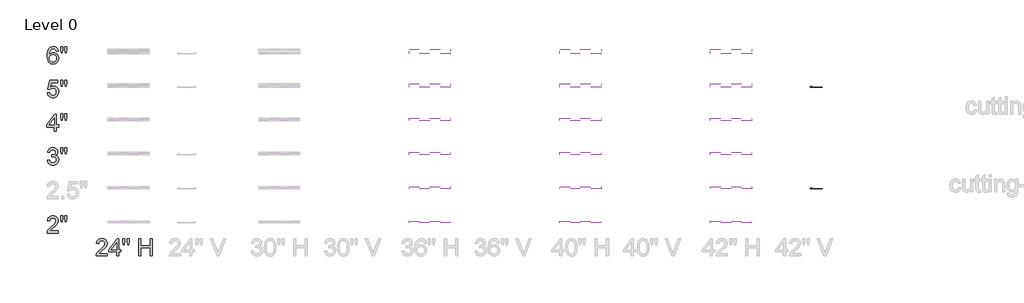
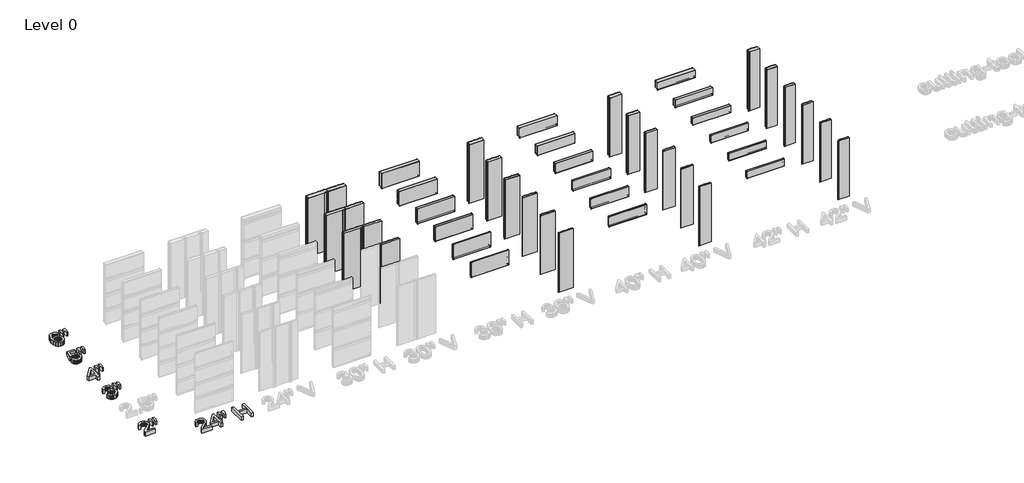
# One storey, part 2 of 5: 43 plates, 6 proxies.
"""IFC4 building model written with IfcOpenShell, lengths in millimetres."""

from ifc_helpers import new_model, si_unit, origin, origin_with_axes, place, context, project, spatial, polyline, outline, extrude, transform, mapped, element, save
from components import plate_b47726fb, plate_b5310251, plate_41d342c4, plate_b517097e, plate_fde0f3bd, plate_5c45e8e0, plate_89738af0, plate_10a718c5, plate_96618327, plate_a8b72244, plate_374e56f4, plate_534590c8, plate_7d6053d8, plate_74843514, plate_0649b553, plate_42dbadf1, plate_4ed21dd5, plate_e803e794, plate_da7b9e45, plate_a3acba6d, plate_1d40ac18, plate_f7d125d8, plate_ed9806c1, plate_fd3d5ee7, plate_15d196fd, plate_daafeea0, plate_80999a55, plate_3caa896a, plate_b5c5fbf1, plate_cc331f6b, plate_b4da4b96, plate_b0eb5d18, plate_366ad755, plate_87e27e4f, plate_29d35a56, plate_fea9afa7, plate_c4b5e563, plate_a3a11aaa, plate_50d09dfa, plate_912df086, plate_67e55ae4, plate_495b0d64, plate_435c7ef1, plate_10c0e79f, plate_5742ab6b, plate_c733afc2, plate_13ff4fa7, plate_491611d7, plate_c9e07188, plate_9c71445d, plate_fb994a9e, plate_1c37ad96, plate_0270b506, plate_cdec7c63, plate_e084fbfc, plate_67e8b0ed, plate_05db5e8a, plate_3e0a3dc7, plate_54b02bbf, plate_d215558d, plate_c20b4eec, plate_cb222a85, plate_255853b2

model = new_model("IFC4")

# Units and contexts
model_context = context("Model", 3, world=origin())
ifc_project = project(units=[si_unit("LENGTHUNIT", "METRE", prefix="MILLI")], contexts=[model_context])

# Site, building, storey
site = spatial("IfcSite", under=ifc_project)
building = spatial("IfcBuilding", under=site)
storey = spatial("IfcBuildingStorey", under=building, Name="Level 0", Elevation=0.0)

# Proxies
placement = place(None, origin())
element("IfcBuildingElementProxy", 1, Name="24\" Arial", ObjectType="24\" Arial", at=placement, inside=storey, context=model_context, shape_type="SweptSolid", body=[
    extrude(outline(polyline([(-32267.664642, 8108.881133), (-32267.664642, 8032.7393595), (-32667.408953, 8032.7393595), (-32665.735916, 8059.5451304), (-32659.2296609, 8085.2355432), (-32640.4544677, 8126.2621287), (-32612.9794821, 8166.0618204), (-32573.2355583, 8207.720442), (-32517.6535508, 8254.3238176), (-32435.488844, 8327.3054101), (-32386.1900199, 8381.177202), (-32371.8111963, 8403.1869334), (-32361.5406079, 8424.899236), (-32355.3782549, 8446.3141098), (-32353.3241372, 8467.4315548), (-32355.2620718, 8487.2988694), (-32361.0758754, 8505.5582095), (-32370.7655481, 8522.2095751), (-32384.3310899, 8537.2529662), (-32401.0196342, 8549.7124447), (-32420.0783142, 8558.6120722), (-32441.5071299, 8563.9518486), (-32465.3060815, 8565.7317741), (-32490.3784001, 8563.9936746), (-32512.8017434, 8558.7793759), (-32532.5761115, 8550.088878), (-32549.7015043, 8537.9221811), (-32563.5551802, 8522.6882496), (-32573.5143978, 8504.7960481), (-32579.579157, 8484.2455768), (-32581.7494578, 8461.0368355), (-32657.8912313, 8470.5545572), (-32651.3431503, 8509.8616324), (-32639.4320562, 8544.2053645), (-32622.157949, 8573.5857534), (-32599.5208288, 8598.0027992), (-32572.0411958, 8617.1962517), (-32540.2395505, 8630.9058605), (-32504.1158929, 8639.1316259), (-32463.6702231, 8641.8735476), (-32422.8620619, 8638.8249024), (-32386.5432167, 8629.6789667), (-32354.7136874, 8614.4357406), (-32327.3734742, 8593.095224), (-32305.4148634, 8567.2375074), (-32289.7301413, 8538.4426815), (-32280.3193081, 8506.7107461), (-32277.1823637, 8472.0417012), (-32280.5656164, 8435.6252622), (-32290.7153742, 8399.8408594), (-32308.7284061, 8363.4430096), (-32335.7014807, 8325.1862299), (-32378.698532, 8279.5123193), (-32444.7834941, 8220.8630773), (-32532.3762765, 8147.6212346), (-32566.7293032, 8108.881133), (-32267.664642, 8108.881133)])), origin_with_axes(), (0.0, 0.0, 1.0), 152.4),
    extrude(outline(polyline([(-32172.9335683, 8422.9659488), (-32191.5228685, 8540.5990403), (-32191.5228685, 8641.8735476), (-32115.381095, 8641.8735476), (-32115.381095, 8540.5990403), (-32132.037108, 8422.9659488), (-32172.9335683, 8422.9659488)])), origin_with_axes(), (0.0, 0.0, 1.0), 152.4),
    extrude(outline(polyline([(-32021.0961645, 8422.9659488), (-32039.2393215, 8540.5990403), (-32039.2393215, 8641.8735476), (-31963.097548, 8641.8735476), (-31963.097548, 8540.5990403), (-31980.9432761, 8422.9659488), (-32021.0961645, 8422.9659488)])), origin_with_axes(), (0.0, 0.0, 1.0), 152.4),
])
element("IfcBuildingElementProxy", 2, Name="24\" Arial", ObjectType="24\" Arial", at=placement, inside=storey, context=model_context, shape_type="SweptSolid", body=[
    extrude(outline(polyline([(-32657.8912313, 10607.5406282), (-32581.7494578, 10617.0583499), (-32564.7030695, 10569.2094913), (-32553.2102347, 10551.1128075), (-32539.7376394, 10536.9012876), (-32523.9785602, 10526.1659667), (-32505.6262736, 10518.4978804), (-32484.6807796, 10513.8970286), (-32461.1420783, 10512.3634113), (-32433.5555568, 10514.4732969), (-32408.9433234, 10520.8029536), (-32387.305378, 10531.3523815), (-32368.6417206, 10546.1215804), (-32353.6122714, 10564.0044872), (-32342.8769505, 10583.8950384), (-32336.435758, 10605.793234), (-32334.2886939, 10629.699074), (-32336.4171687, 10652.4663194), (-32342.8025933, 10673.1794471), (-32353.4449677, 10691.8384572), (-32368.3442918, 10708.4433496), (-32386.5246274, 10722.0739539), (-32407.0100361, 10731.8100999), (-32429.8005182, 10737.6517875), (-32454.8960734, 10739.5990167), (-32478.9506278, 10737.517015), (-32508.2845435, 10731.2710102), (-32499.8078226, 10807.4127837), (-32487.6132417, 10806.5204973), (-32441.9950991, 10811.9857515), (-32401.2101745, 10828.3815143), (-32384.4240364, 10840.7805775), (-32372.4339378, 10856.1167502), (-32365.2398787, 10874.3900322), (-32362.8418589, 10895.6004237), (-32364.5799585, 10912.818763), (-32369.7942572, 10928.4848957), (-32378.484755, 10942.5988219), (-32390.651452, 10955.1605415), (-32405.5600707, 10965.4729558), (-32422.4763339, 10972.838966), (-32441.4002415, 10977.2585721), (-32462.3317935, 10978.7317741), (-32483.2075776, 10977.2446301), (-32502.2616102, 10972.7831981), (-32519.4938915, 10965.347478), (-32534.9044213, 10954.9374699), (-32548.1121191, 10941.5531738), (-32558.7359042, 10925.1945896), (-32566.7757765, 10905.8617174), (-32572.2317361, 10883.5545572), (-32648.3735096, 10893.0722789), (-32639.3484044, 10929.4236554), (-32625.9548136, 10961.443725), (-32608.1927373, 10989.1324876), (-32586.0621754, 11012.4899432), (-32560.2602268, 11031.0327702), (-32531.4839901, 11044.2776465), (-32499.7334654, 11052.2245724), (-32465.0086527, 11054.8735476), (-32417.1412047, 11049.6499543), (-32373.1775098, 11033.9791742), (-32336.1104453, 11009.255405), (-32308.9328884, 10976.8728441), (-32292.2582862, 10939.5641186), (-32286.7000854, 10900.0618558), (-32291.9794467, 10863.2550414), (-32307.8175304, 10829.8686583), (-32333.9912651, 10801.427029), (-32370.277579, 10779.4544762), (-32344.9031843, 10771.5168451), (-32322.6146134, 10760.1959613), (-32303.4118663, 10745.4918248), (-32287.294943, 10727.4044358), (-32274.5426831, 10706.3799373), (-32265.433926, 10682.8644725), (-32259.9686718, 10656.8580416), (-32258.1469203, 10628.3606444), (-32261.7904232, 10589.7320787), (-32272.7209317, 10554.1521581), (-32290.9384459, 10521.6208828), (-32316.4429657, 10492.1382527), (-32347.5149809, 10467.6747337), (-32382.4349813, 10450.2007915), (-32421.2029668, 10439.7164262), (-32463.8189375, 10436.2216378), (-32502.3359674, 10439.2052205), (-32537.4325662, 10448.1559685), (-32569.1087337, 10463.0738819), (-32597.3644699, 10483.9589607), (-32621.056533, 10509.5843109), (-32639.0416809, 10538.723039), (-32651.3199137, 10571.3751447), (-32657.8912313, 10607.5406282)])), origin_with_axes(), (0.0, 0.0, 1.0), 152.4),
    extrude(outline(polyline([(-32172.9335683, 10835.9659488), (-32191.5228685, 10953.5990403), (-32191.5228685, 11054.8735476), (-32115.381095, 11054.8735476), (-32115.381095, 10953.5990403), (-32132.037108, 10835.9659488), (-32172.9335683, 10835.9659488)])), origin_with_axes(), (0.0, 0.0, 1.0), 152.4),
    extrude(outline(polyline([(-32021.0961645, 10835.9659488), (-32039.2393215, 10953.5990403), (-32039.2393215, 11054.8735476), (-31963.097548, 11054.8735476), (-31963.097548, 10953.5990403), (-31980.9432761, 10835.9659488), (-32021.0961645, 10835.9659488)])), origin_with_axes(), (0.0, 0.0, 1.0), 152.4),
])
element("IfcBuildingElementProxy", 3, Name="24\" Arial", ObjectType="24\" Arial", at=placement, inside=storey, context=model_context, shape_type="SweptSolid", body=[
    extrude(outline(polyline([(-32410.4304674, 11639.5393595), (-32410.4304674, 11782.3051848), (-32686.4443964, 11782.3051848), (-32686.4443964, 11858.4469584), (-32391.395024, 12239.1558259), (-32334.2886939, 12239.1558259), (-32334.2886939, 11858.4469584), (-32258.1469203, 11858.4469584), (-32258.1469203, 11782.3051848), (-32334.2886939, 11782.3051848), (-32334.2886939, 11639.5393595), (-32410.4304674, 11639.5393595)]), holes=[polyline([(-32410.4304674, 11858.4469584), (-32410.4304674, 12093.7131414), (-32592.7543235, 11858.4469584), (-32410.4304674, 11858.4469584)])]), origin_with_axes(), (0.0, 0.0, 1.0), 152.4),
    extrude(outline(polyline([(-32172.9335683, 12029.7659488), (-32191.5228685, 12147.3990403), (-32191.5228685, 12248.6735476), (-32115.381095, 12248.6735476), (-32115.381095, 12147.3990403), (-32132.037108, 12029.7659488), (-32172.9335683, 12029.7659488)])), origin_with_axes(), (0.0, 0.0, 1.0), 152.4),
    extrude(outline(polyline([(-32021.0961645, 12029.7659488), (-32039.2393215, 12147.3990403), (-32039.2393215, 12248.6735476), (-31963.097548, 12248.6735476), (-31963.097548, 12147.3990403), (-31980.9432761, 12029.7659488), (-32021.0961645, 12029.7659488)])), origin_with_axes(), (0.0, 0.0, 1.0), 152.4),
])
element("IfcBuildingElementProxy", 4, Name="24\" Arial", ObjectType="24\" Arial", at=placement, inside=storey, context=model_context, shape_type="SweptSolid", body=[
    extrude(outline(polyline([(-30531.9205653, 7302.1451481), (-30531.9205653, 7226.0033745), (-30931.6648763, 7226.0033745), (-30929.9918393, 7252.8091454), (-30923.4855842, 7278.4995582), (-30904.710391, 7319.5261437), (-30877.2354054, 7359.3258354), (-30837.4914816, 7400.9844571), (-30781.9094741, 7447.5878326), (-30699.7447673, 7520.5694251), (-30650.4459432, 7574.441217), (-30636.0671195, 7596.4509484), (-30625.7965312, 7618.163251), (-30619.6341782, 7639.5781248), (-30617.5800605, 7660.6955698), (-30619.5179951, 7680.5628844), (-30625.3317987, 7698.8222245), (-30635.0214714, 7715.4735901), (-30648.5870132, 7730.5169813), (-30665.2755574, 7742.9764597), (-30684.3342374, 7751.8760872), (-30705.7630532, 7757.2158637), (-30729.5620048, 7758.9957892), (-30754.6343234, 7757.2576896), (-30777.0576667, 7752.0433909), (-30796.8320348, 7743.3528931), (-30813.9574276, 7731.1861961), (-30827.8111035, 7715.9522646), (-30837.7703211, 7698.0600632), (-30843.8350803, 7677.5095918), (-30846.0053811, 7654.3008506), (-30922.1471546, 7663.8185723), (-30915.5990736, 7703.1256475), (-30903.6879795, 7737.4693796), (-30886.4138723, 7766.8497685), (-30863.776752, 7791.2668143), (-30836.297119, 7810.4602667), (-30804.4954738, 7824.1698756), (-30768.3718162, 7832.3956409), (-30727.9261464, 7835.1375627), (-30687.1179851, 7832.0889174), (-30650.7991399, 7822.9429818), (-30618.9696107, 7807.6997556), (-30591.6293975, 7786.359239), (-30569.6707866, 7760.5015225), (-30553.9860646, 7731.7066965), (-30544.5752314, 7699.9747611), (-30541.438287, 7665.3057163), (-30544.8215396, 7628.8892772), (-30554.9712975, 7593.1048744), (-30572.9843294, 7556.7070247), (-30599.9574039, 7518.4502449), (-30642.9544553, 7472.7763344), (-30709.0394174, 7414.1270923), (-30796.6321998, 7340.8852496), (-30830.9852265, 7302.1451481), (-30531.9205653, 7302.1451481)])), origin_with_axes(), (0.0, 0.0, 1.0), 152.4),
    extrude(outline(polyline([(-30208.3180279, 7226.0033745), (-30208.3180279, 7368.7691999), (-30484.3319569, 7368.7691999), (-30484.3319569, 7444.9109734), (-30189.2825845, 7825.619841), (-30132.1762543, 7825.619841), (-30132.1762543, 7444.9109734), (-30056.0344808, 7444.9109734), (-30056.0344808, 7368.7691999), (-30132.1762543, 7368.7691999), (-30132.1762543, 7226.0033745), (-30208.3180279, 7226.0033745)]), holes=[polyline([(-30208.3180279, 7444.9109734), (-30208.3180279, 7680.1771564), (-30390.641884, 7444.9109734), (-30208.3180279, 7444.9109734)])]), origin_with_axes(), (0.0, 0.0, 1.0), 152.4),
    extrude(outline(polyline([(-29970.8211288, 7616.2299638), (-29989.410429, 7733.8630553), (-29989.410429, 7835.1375627), (-29913.2686555, 7835.1375627), (-29913.2686555, 7733.8630553), (-29929.9246684, 7616.2299638), (-29970.8211288, 7616.2299638)])), origin_with_axes(), (0.0, 0.0, 1.0), 152.4),
    extrude(outline(polyline([(-29818.983725, 7616.2299638), (-29837.126882, 7733.8630553), (-29837.126882, 7835.1375627), (-29760.9851084, 7835.1375627), (-29760.9851084, 7733.8630553), (-29778.8308366, 7616.2299638), (-29818.983725, 7616.2299638)])), origin_with_axes(), (0.0, 0.0, 1.0), 152.4),
    extrude(outline(polyline([(-29418.3471276, 7226.0033745), (-29418.3471276, 7835.1375627), (-29342.2053541, 7835.1375627), (-29342.2053541, 7587.6767987), (-29018.6028167, 7587.6767987), (-29018.6028167, 7835.1375627), (-28942.4610431, 7835.1375627), (-28942.4610431, 7226.0033745), (-29018.6028167, 7226.0033745), (-29018.6028167, 7511.5350252), (-29342.2053541, 7511.5350252), (-29342.2053541, 7226.0033745), (-29418.3471276, 7226.0033745)])), origin_with_axes(), (0.0, 0.0, 1.0), 152.4),
])
element("IfcBuildingElementProxy", 5, Name="24\" Arial", ObjectType="24\" Arial", at=placement, inside=storey, context=model_context, shape_type="SweptSolid", body=[
    extrude(outline(polyline([(-32657.8912313, 12996.1406282), (-32581.7494578, 13005.6583499), (-32576.0611319, 12981.1808889), (-32567.7703041, 12959.9472608), (-32556.8769742, 12941.9574655), (-32543.3811422, 12927.2115032), (-32527.3106922, 12915.727963), (-32508.6935081, 12907.5254343), (-32487.5295899, 12902.6039171), (-32463.8189375, 12900.9634113), (-32434.8196292, 12903.2452479), (-32409.2407522, 12910.0907577), (-32387.0823064, 12921.4999407), (-32368.3442918, 12937.4727969), (-32353.4449677, 12957.219281), (-32342.8025933, 12979.9493478), (-32336.4171687, 13005.6629972), (-32334.2886939, 13034.3602294), (-32336.2823963, 13061.4820183), (-32342.2635036, 13085.5923407), (-32352.2320159, 13106.6911964), (-32366.187933, 13124.7785854), (-32384.1777282, 13139.2875342), (-32406.2478748, 13149.6510691), (-32432.3983729, 13155.86919), (-32462.6292223, 13157.9418969), (-32499.5661617, 13154.6330015), (-32529.4763457, 13144.7063152), (-32553.3635964, 13129.5002677), (-32572.2317361, 13110.3532885), (-32648.3735096, 13119.8710102), (-32581.7494578, 13433.9558259), (-32286.7000854, 13433.9558259), (-32286.7000854, 13357.8140524), (-32520.1816956, 13357.8140524), (-32552.7501495, 13190.0642076), (-32525.8793161, 13209.3227226), (-32498.3578572, 13223.0788048), (-32470.1857728, 13231.332454), (-32441.3630629, 13234.0836705), (-32404.2820563, 13230.6725339), (-32370.2218111, 13220.4391241), (-32339.1823271, 13203.3834412), (-32311.1636044, 13179.5054851), (-32287.9688051, 13150.264516), (-32271.4010914, 13117.1197938), (-32261.4604631, 13080.0713185), (-32258.1469203, 13039.1190902), (-32261.130503, 12999.6725953), (-32270.0812511, 12962.9773167), (-32284.9991644, 12929.0332546), (-32305.8842432, 12897.8404089), (-32337.5232321, 12865.8946965), (-32374.4415822, 12843.0763306), (-32416.6392936, 12829.385311), (-32464.1163663, 12824.8216378), (-32503.4094995, 12827.7540999), (-32538.9011209, 12836.5514862), (-32570.5912304, 12851.2137967), (-32598.4798279, 12871.7410315), (-32621.6839219, 12897.1107789), (-32639.3205204, 12926.3006275), (-32651.3896236, 12959.3105772), (-32657.8912313, 12996.1406282)])), origin_with_axes(), (0.0, 0.0, 1.0), 152.4),
    extrude(outline(polyline([(-32172.9335683, 13224.5659488), (-32191.5228685, 13342.1990403), (-32191.5228685, 13443.4735476), (-32115.381095, 13443.4735476), (-32115.381095, 13342.1990403), (-32132.037108, 13224.5659488), (-32172.9335683, 13224.5659488)])), origin_with_axes(), (0.0, 0.0, 1.0), 152.4),
    extrude(outline(polyline([(-32021.0961645, 13224.5659488), (-32039.2393215, 13342.1990403), (-32039.2393215, 13443.4735476), (-31963.097548, 13443.4735476), (-31963.097548, 13342.1990403), (-31980.9432761, 13224.5659488), (-32021.0961645, 13224.5659488)])), origin_with_axes(), (0.0, 0.0, 1.0), 152.4),
])
element("IfcBuildingElementProxy", 6, Name="24\" Arial", ObjectType="24\" Arial", at=placement, inside=storey, context=model_context, shape_type="SweptSolid", body=[
    extrude(outline(polyline([(-32267.664642, 14473.0707053), (-32343.8064155, 14463.5529837), (-32356.0753537, 14501.289263), (-32372.6570094, 14527.0540331), (-32389.0248882, 14540.9123563), (-32407.1959291, 14550.8111587), (-32427.1701322, 14556.7504401), (-32448.9474973, 14558.7302005), (-32484.3415249, 14554.1200541), (-32517.6535508, 14540.2896148), (-32546.2624838, 14511.1601814), (-32569.6292341, 14471.0630609), (-32578.7612278, 14445.4888312), (-32585.4115499, 14414.3471061), (-32591.2671795, 14335.3611696), (-32560.7249593, 14370.9968581), (-32524.1226272, 14396.1110026), (-32483.5050064, 14411.0010321), (-32440.9169197, 14415.9643752), (-32404.3331769, 14412.5718279), (-32370.5750078, 14402.3941861), (-32339.6424123, 14385.4314497), (-32311.5353904, 14361.6836187), (-32288.1779348, 14332.56348), (-32271.4940379, 14299.4838203), (-32261.4836997, 14262.4446397), (-32258.1469203, 14221.4459382), (-32259.7177162, 14193.6874657), (-32264.4301038, 14166.9235208), (-32272.2840831, 14141.1541034), (-32283.2796542, 14116.3792136), (-32297.0264417, 14093.523669), (-32313.1340703, 14073.5122874), (-32331.60254, 14056.3450687), (-32352.4318508, 14042.0220129), (-32375.1758596, 14030.7336604), (-32399.3884231, 14022.6705514), (-32425.0695413, 14017.832686), (-32452.2192142, 14016.2200642), (-32497.6096379, 14020.4956033), (-32538.6036921, 14033.3222204), (-32575.2013768, 14054.6999156), (-32607.402692, 14084.6286889), (-32633.6554312, 14124.3726127), (-32652.4073878, 14175.1957593), (-32663.6585617, 14237.0981289), (-32667.408953, 14310.0797214), (-32663.2449498, 14391.9005261), (-32650.75294, 14461.7312322), (-32629.9329238, 14519.5718397), (-32616.3999133, 14543.9958565), (-32600.7849012, 14565.4223486), (-32569.1923855, 14595.8065597), (-32532.5621695, 14617.5095677), (-32490.8942532, 14630.5313725), (-32444.1886365, 14634.8719741), (-32409.1199217, 14632.1858202), (-32377.3786917, 14624.1273586), (-32348.9649463, 14610.6965892), (-32323.8786858, 14591.8935121), (-32302.7984194, 14568.3501634), (-32286.4026566, 14540.6985794), (-32274.6913975, 14508.93876), (-32267.664642, 14473.0707053)]), holes=[polyline([(-32591.2671795, 14222.6356534), (-32586.8615153, 14188.8960736), (-32573.6445229, 14156.6808164), (-32553.1219355, 14128.9827591), (-32526.7994865, 14108.7947791), (-32495.0303725, 14096.4700731), (-32458.1677902, 14092.3618378), (-32431.7012741, 14094.4903126), (-32407.9209119, 14100.8757372), (-32386.8267035, 14111.5181116), (-32368.418649, 14126.4174357), (-32353.4867936, 14144.9695573), (-32342.8211826, 14166.5703241), (-32336.4218161, 14191.2197361), (-32334.2886939, 14218.9177933), (-32336.3939321, 14245.5330239), (-32342.7096468, 14269.1646717), (-32353.2358381, 14289.8127369), (-32367.9725058, 14307.4772194), (-32386.4363282, 14321.6283241), (-32408.1439835, 14331.7362561), (-32433.0954716, 14337.8010153), (-32461.2907927, 14339.8226017), (-32487.4041121, 14337.8010153), (-32511.4633138, 14331.7362561), (-32533.4683979, 14321.6283241), (-32553.4193643, 14307.4772194), (-32569.9777835, 14290.0451031), (-32581.8052257, 14270.0941367), (-32588.901691, 14247.6243201), (-32591.2671795, 14222.6356534)])]), origin_with_axes(), (0.0, 0.0, 1.0), 152.4),
    extrude(outline(polyline([(-32172.9335683, 14415.9643752), (-32191.5228685, 14533.5974667), (-32191.5228685, 14634.8719741), (-32115.381095, 14634.8719741), (-32115.381095, 14533.5974667), (-32132.037108, 14415.9643752), (-32172.9335683, 14415.9643752)])), origin_with_axes(), (0.0, 0.0, 1.0), 152.4),
    extrude(outline(polyline([(-32021.0961645, 14415.9643752), (-32039.2393215, 14533.5974667), (-32039.2393215, 14634.8719741), (-31963.097548, 14634.8719741), (-31963.097548, 14533.5974667), (-31980.9432761, 14415.9643752), (-32021.0961645, 14415.9643752)])), origin_with_axes(), (0.0, 0.0, 1.0), 152.4),
])

# Plates
plate_shape = plate_b47726fb(model_context)
element("IfcPlate", 7, ObjectType="KIP-42-Karrier-KP-R19-CP-Hz-FL3-8in_SL : Hz 2\"", at=placement, inside=storey, context=model_context, shape_type="MappedRepresentation", body=[
    mapped(plate_shape, transform((-8448.7250935, 8444.8222907, 2133.6), x_axis=(1.0, 0.0, 0.0), y_axis=(0.0, 1.0, 0.0), z_axis=(0.0, 0.0, 1.0))),
])
plate_2_shape = plate_b5310251(model_context)
element("IfcPlate", 8, ObjectType="KIP-40-Karrier-KP-R19-CP-Hz-FL3-8in_SL : Hz 2\"", at=placement, inside=storey, context=model_context, shape_type="MappedRepresentation", body=[
    mapped(plate_2_shape, transform((-13782.7250935, 8444.8222907, 2032.0), x_axis=(1.0, 0.0, 0.0), y_axis=(0.0, 1.0, 0.0), z_axis=(0.0, 0.0, 1.0))),
])
plate_3_shape = plate_41d342c4(model_context)
plate_4_shape = plate_b517097e(model_context)
element("IfcPlate", 9, ObjectType="KIP-36-Karrier-KP-R19-CP-Hz-FL3-8in_SL : Hz 2\"", at=placement, inside=storey, context=model_context, shape_type="MappedRepresentation", body=[
    mapped(plate_3_shape, transform((-19116.7250935, 8444.8222907, 1828.8), x_axis=(1.0, 0.0, 0.0), y_axis=(0.0, 1.0, 0.0), z_axis=(0.0, 0.0, 1.0))),
    mapped(plate_4_shape, transform((-19116.7250935, 8444.8222907, 1828.8), x_axis=(1.0, 0.0, 0.0), y_axis=(0.0, 1.0, 0.0), z_axis=(0.0, 0.0, 1.0))),
])
plate_5_shape = plate_fde0f3bd(model_context)
element("IfcPlate", 10, ObjectType="KIP-42-Karrier-KP-R19-CP-Hz-FL3-8in_SL : Hz 2.5\"", at=placement, inside=storey, context=model_context, shape_type="MappedRepresentation", body=[
    mapped(plate_5_shape, transform((-8448.7250935, 9664.0222907, 2133.6), x_axis=(1.0, 0.0, 0.0), y_axis=(0.0, 1.0, 0.0), z_axis=(0.0, 0.0, 1.0))),
])
plate_6_shape = plate_5c45e8e0(model_context)
element("IfcPlate", 11, ObjectType="KIP-40-Karrier-KP-R19-CP-Hz-FL3-8in_SL : Hz 2.5\"", at=placement, inside=storey, context=model_context, shape_type="MappedRepresentation", body=[
    mapped(plate_6_shape, transform((-13782.7250935, 9664.0222907, 2032.0), x_axis=(1.0, 0.0, 0.0), y_axis=(0.0, 1.0, 0.0), z_axis=(0.0, 0.0, 1.0))),
])
plate_7_shape = plate_89738af0(model_context)
plate_8_shape = plate_10a718c5(model_context)
element("IfcPlate", 12, ObjectType="KIP-36-Karrier-KP-R19-CP-Hz-FL3-8in_SL : Hz 2.5\"", at=placement, inside=storey, context=model_context, shape_type="MappedRepresentation", body=[
    mapped(plate_7_shape, transform((-19116.7250935, 9664.0222907, 1828.8), x_axis=(1.0, 0.0, 0.0), y_axis=(0.0, 1.0, 0.0), z_axis=(0.0, 0.0, 1.0))),
    mapped(plate_8_shape, transform((-19116.7250935, 9664.0222907, 1828.8), x_axis=(1.0, 0.0, 0.0), y_axis=(0.0, 1.0, 0.0), z_axis=(0.0, 0.0, 1.0))),
])
plate_9_shape = plate_96618327(model_context)
element("IfcPlate", 13, ObjectType="KIP-42-Karrier-KP-R19-CP-Hz-FL3-8in_SL : Hz 3\"", at=placement, inside=storey, context=model_context, shape_type="MappedRepresentation", body=[
    mapped(plate_9_shape, transform((-8448.7250935, 10883.2222907, 2133.6), x_axis=(1.0, 0.0, 0.0), y_axis=(0.0, 1.0, 0.0), z_axis=(0.0, 0.0, 1.0))),
])
plate_10_shape = plate_a8b72244(model_context)
element("IfcPlate", 14, ObjectType="KIP-40-Karrier-KP-R19-CP-Hz-FL3-8in_SL : Hz 3\"", at=placement, inside=storey, context=model_context, shape_type="MappedRepresentation", body=[
    mapped(plate_10_shape, transform((-13782.7250935, 10883.2222907, 2032.0), x_axis=(1.0, 0.0, 0.0), y_axis=(0.0, 1.0, 0.0), z_axis=(0.0, 0.0, 1.0))),
])
plate_11_shape = plate_374e56f4(model_context)
plate_12_shape = plate_534590c8(model_context)
element("IfcPlate", 15, ObjectType="KIP-36-Karrier-KP-R19-CP-Hz-FL3-8in_SL : Hz 3\"", at=placement, inside=storey, context=model_context, shape_type="MappedRepresentation", body=[
    mapped(plate_11_shape, transform((-19116.7250935, 10883.2222907, 1828.8), x_axis=(1.0, 0.0, 0.0), y_axis=(0.0, 1.0, 0.0), z_axis=(0.0, 0.0, 1.0))),
    mapped(plate_12_shape, transform((-19116.7250935, 10883.2222907, 1828.8), x_axis=(1.0, 0.0, 0.0), y_axis=(0.0, 1.0, 0.0), z_axis=(0.0, 0.0, 1.0))),
])
plate_13_shape = plate_7d6053d8(model_context)
element("IfcPlate", 16, ObjectType="KIP-42-Karrier-KP-R19-CP-Hz-FL3-8in_SL : Hz 4\"", at=placement, inside=storey, context=model_context, shape_type="MappedRepresentation", body=[
    mapped(plate_13_shape, transform((-8448.7250935, 12102.4222907, 2133.6), x_axis=(1.0, 0.0, 0.0), y_axis=(0.0, 1.0, 0.0), z_axis=(0.0, 0.0, 1.0))),
])
plate_14_shape = plate_74843514(model_context)
element("IfcPlate", 17, ObjectType="KIP-40-Karrier-KP-R19-CP-Hz-FL3-8in_SL : Hz 4\"", at=placement, inside=storey, context=model_context, shape_type="MappedRepresentation", body=[
    mapped(plate_14_shape, transform((-13782.7250935, 12102.4222907, 2032.0), x_axis=(1.0, 0.0, 0.0), y_axis=(0.0, 1.0, 0.0), z_axis=(0.0, 0.0, 1.0))),
])
plate_15_shape = plate_0649b553(model_context)
plate_16_shape = plate_42dbadf1(model_context)
element("IfcPlate", 18, ObjectType="KIP-36-Karrier-KP-R19-CP-Hz-FL3-8in_SL : Hz 4\"", at=placement, inside=storey, context=model_context, shape_type="MappedRepresentation", body=[
    mapped(plate_15_shape, transform((-19116.7250935, 12102.4222907, 1828.8), x_axis=(1.0, 0.0, 0.0), y_axis=(0.0, 1.0, 0.0), z_axis=(0.0, 0.0, 1.0))),
    mapped(plate_16_shape, transform((-19116.7250935, 12102.4222907, 1828.8), x_axis=(1.0, 0.0, 0.0), y_axis=(0.0, 1.0, 0.0), z_axis=(0.0, 0.0, 1.0))),
])
plate_17_shape = plate_4ed21dd5(model_context)
element("IfcPlate", 19, ObjectType="KIP-42-Karrier-KP-R19-CP-Hz-FL3-8in_SL : Hz 5\"", at=placement, inside=storey, context=model_context, shape_type="MappedRepresentation", body=[
    mapped(plate_17_shape, transform((-8448.7250935, 13321.6222907, 2133.6), x_axis=(1.0, 0.0, 0.0), y_axis=(0.0, 1.0, 0.0), z_axis=(0.0, 0.0, 1.0))),
])
plate_18_shape = plate_e803e794(model_context)
element("IfcPlate", 20, ObjectType="KIP-40-Karrier-KP-R19-CP-Hz-FL3-8in_SL : Hz 5\"", at=placement, inside=storey, context=model_context, shape_type="MappedRepresentation", body=[
    mapped(plate_18_shape, transform((-13782.7250935, 13321.6222907, 2032.0), x_axis=(1.0, 0.0, 0.0), y_axis=(0.0, 1.0, 0.0), z_axis=(0.0, 0.0, 1.0))),
])
plate_19_shape = plate_da7b9e45(model_context)
plate_20_shape = plate_a3acba6d(model_context)
element("IfcPlate", 21, ObjectType="KIP-36-Karrier-KP-R19-CP-Hz-FL3-8in_SL : Hz 5\"", at=placement, inside=storey, context=model_context, shape_type="MappedRepresentation", body=[
    mapped(plate_19_shape, transform((-19116.7250935, 13321.6222907, 1828.8), x_axis=(1.0, 0.0, 0.0), y_axis=(0.0, 1.0, 0.0), z_axis=(0.0, 0.0, 1.0))),
    mapped(plate_20_shape, transform((-19116.7250935, 13321.6222907, 1828.8), x_axis=(1.0, 0.0, 0.0), y_axis=(0.0, 1.0, 0.0), z_axis=(0.0, 0.0, 1.0))),
])
plate_21_shape = plate_1d40ac18(model_context)
element("IfcPlate", 22, ObjectType="KIP-42-Karrier-KP-R19-CP-Hz-FL3-8in_SL : Hz 6\"", at=placement, inside=storey, context=model_context, shape_type="MappedRepresentation", body=[
    mapped(plate_21_shape, transform((-8448.7250935, 14539.4207172, 2133.6), x_axis=(1.0, 0.0, 0.0), y_axis=(0.0, 1.0, 0.0), z_axis=(0.0, 0.0, 1.0))),
])
plate_22_shape = plate_f7d125d8(model_context)
element("IfcPlate", 23, ObjectType="KIP-40-Karrier-KP-R19-CP-Hz-FL3-8in_SL : Hz 6\"", at=placement, inside=storey, context=model_context, shape_type="MappedRepresentation", body=[
    mapped(plate_22_shape, transform((-13782.7250935, 14539.4207172, 2032.0), x_axis=(1.0, 0.0, 0.0), y_axis=(0.0, 1.0, 0.0), z_axis=(0.0, 0.0, 1.0))),
])
plate_23_shape = plate_ed9806c1(model_context)
plate_24_shape = plate_fd3d5ee7(model_context)
element("IfcPlate", 24, ObjectType="KIP-36-Karrier-KP-R19-CP-Hz-FL3-8in_SL : Hz 6\"", at=placement, inside=storey, context=model_context, shape_type="MappedRepresentation", body=[
    mapped(plate_23_shape, transform((-19116.7250935, 14539.4207172, 1828.8), x_axis=(1.0, 0.0, 0.0), y_axis=(0.0, 1.0, 0.0), z_axis=(0.0, 0.0, 1.0))),
    mapped(plate_24_shape, transform((-19116.7250935, 14539.4207172, 1828.8), x_axis=(1.0, 0.0, 0.0), y_axis=(0.0, 1.0, 0.0), z_axis=(0.0, 0.0, 1.0))),
])
plate_25_shape = plate_15d196fd(model_context)
element("IfcPlate", 25, ObjectType="KIP-42-Karrier-KP-R19-CP-Vt-FL3-8in_SL : Vt 2\"", at=placement, inside=storey, context=model_context, shape_type="MappedRepresentation", body=[
    mapped(plate_25_shape, transform((-5415.5413834, 8443.4207172, 0.0), x_axis=(1.0, 0.0, 0.0), y_axis=(0.0, 1.0, 0.0), z_axis=(0.0, 0.0, 1.0))),
])
plate_26_shape = plate_daafeea0(model_context)
element("IfcPlate", 26, ObjectType="KIP-40-Karrier-KP-R19-CP-Vt-FL3-8in_SL : Vt 2\"", at=placement, inside=storey, context=model_context, shape_type="MappedRepresentation", body=[
    mapped(plate_26_shape, transform((-10774.9413834, 8443.4207172, 0.0), x_axis=(1.0, 0.0, 0.0), y_axis=(0.0, 1.0, 0.0), z_axis=(0.0, 0.0, 1.0))),
])
plate_27_shape = plate_80999a55(model_context)
plate_28_shape = plate_3caa896a(model_context)
element("IfcPlate", 27, ObjectType="KIP-36-Karrier-KP-R19-CP-Vt-FL3-8in_SL : Vt 2\"", at=placement, inside=storey, context=model_context, shape_type="MappedRepresentation", body=[
    mapped(plate_27_shape, transform((-16159.7413834, 8443.4207172, 0.0), x_axis=(1.0, 0.0, 0.0), y_axis=(0.0, 1.0, 0.0), z_axis=(0.0, 0.0, 1.0))),
    mapped(plate_28_shape, transform((-16159.7413834, 8443.4207172, 0.0), x_axis=(1.0, 0.0, 0.0), y_axis=(0.0, 1.0, 0.0), z_axis=(0.0, 0.0, 1.0))),
])
plate_29_shape = plate_b5c5fbf1(model_context)
element("IfcPlate", 28, ObjectType="KIP-42-Karrier-KP-R19-CP-Vt-FL3-8in_SL : Vt 2.5\"", at=placement, inside=storey, context=model_context, shape_type="MappedRepresentation", body=[
    mapped(plate_29_shape, transform((-5415.5413834, 9662.6207172, 0.0), x_axis=(1.0, 0.0, 0.0), y_axis=(0.0, 1.0, 0.0), z_axis=(0.0, 0.0, 1.0))),
])
plate_30_shape = plate_cc331f6b(model_context)
element("IfcPlate", 29, ObjectType="KIP-40-Karrier-KP-R19-CP-Vt-FL3-8in_SL : Vt 2.5\"", at=placement, inside=storey, context=model_context, shape_type="MappedRepresentation", body=[
    mapped(plate_30_shape, transform((-10774.9413834, 9662.6207172, 0.0), x_axis=(1.0, 0.0, 0.0), y_axis=(0.0, 1.0, 0.0), z_axis=(0.0, 0.0, 1.0))),
])
plate_31_shape = plate_b4da4b96(model_context)
plate_32_shape = plate_b0eb5d18(model_context)
element("IfcPlate", 30, ObjectType="KIP-36-Karrier-KP-R19-CP-Vt-FL3-8in_SL : Vt 2.5\"", at=placement, inside=storey, context=model_context, shape_type="MappedRepresentation", body=[
    mapped(plate_31_shape, transform((-16159.7413834, 9662.6207172, 0.0), x_axis=(1.0, 0.0, 0.0), y_axis=(0.0, 1.0, 0.0), z_axis=(0.0, 0.0, 1.0))),
    mapped(plate_32_shape, transform((-16159.7413834, 9662.6207172, 0.0), x_axis=(1.0, 0.0, 0.0), y_axis=(0.0, 1.0, 0.0), z_axis=(0.0, 0.0, 1.0))),
])
plate_33_shape = plate_366ad755(model_context)
element("IfcPlate", 31, ObjectType="KIP-42-Karrier-KP-R19-CP-Vt-FL3-8in_SL : Vt 3\"", at=placement, inside=storey, context=model_context, shape_type="MappedRepresentation", body=[
    mapped(plate_33_shape, transform((-5415.5413834, 10881.8207172, 0.0), x_axis=(1.0, 0.0, 0.0), y_axis=(0.0, 1.0, 0.0), z_axis=(0.0, 0.0, 1.0))),
])
plate_34_shape = plate_87e27e4f(model_context)
element("IfcPlate", 32, ObjectType="KIP-40-Karrier-KP-R19-CP-Vt-FL3-8in_SL : Vt 3\"", at=placement, inside=storey, context=model_context, shape_type="MappedRepresentation", body=[
    mapped(plate_34_shape, transform((-10774.9413834, 10881.8207172, 0.0), x_axis=(1.0, 0.0, 0.0), y_axis=(0.0, 1.0, 0.0), z_axis=(0.0, 0.0, 1.0))),
])
plate_35_shape = plate_29d35a56(model_context)
plate_36_shape = plate_fea9afa7(model_context)
element("IfcPlate", 33, ObjectType="KIP-36-Karrier-KP-R19-CP-Vt-FL3-8in_SL : Vt 3\"", at=placement, inside=storey, context=model_context, shape_type="MappedRepresentation", body=[
    mapped(plate_35_shape, transform((-16159.7413834, 10881.8207172, 0.0), x_axis=(1.0, 0.0, 0.0), y_axis=(0.0, 1.0, 0.0), z_axis=(0.0, 0.0, 1.0))),
    mapped(plate_36_shape, transform((-16159.7413834, 10881.8207172, 0.0), x_axis=(1.0, 0.0, 0.0), y_axis=(0.0, 1.0, 0.0), z_axis=(0.0, 0.0, 1.0))),
])
plate_37_shape = plate_c4b5e563(model_context)
plate_38_shape = plate_a3a11aaa(model_context)
element("IfcPlate", 34, ObjectType="KIP-30-Karrier-KP-R19-CP-Vt-FL3-8_SL : Vt 3\"", at=placement, inside=storey, context=model_context, shape_type="MappedRepresentation", body=[
    mapped(plate_37_shape, transform((-21569.9413834, 10881.8207172, 0.0), x_axis=(1.0, 0.0, 0.0), y_axis=(0.0, 1.0, 0.0), z_axis=(0.0, 0.0, 1.0))),
    mapped(plate_38_shape, transform((-21569.9413834, 10881.8207172, 0.0), x_axis=(1.0, 0.0, 0.0), y_axis=(0.0, 1.0, 0.0), z_axis=(0.0, 0.0, 1.0))),
])
plate_39_shape = plate_50d09dfa(model_context)
element("IfcPlate", 35, ObjectType="KIP-42-Karrier-KP-R19-CP-Vt-FL3-8in_SL : Vt 4\"", at=placement, inside=storey, context=model_context, shape_type="MappedRepresentation", body=[
    mapped(plate_39_shape, transform((-5415.5413834, 12101.0207172, 0.0), x_axis=(1.0, 0.0, 0.0), y_axis=(0.0, 1.0, 0.0), z_axis=(0.0, 0.0, 1.0))),
])
plate_40_shape = plate_912df086(model_context)
element("IfcPlate", 36, ObjectType="KIP-40-Karrier-KP-R19-CP-Vt-FL3-8in_SL : Vt 4\"", at=placement, inside=storey, context=model_context, shape_type="MappedRepresentation", body=[
    mapped(plate_40_shape, transform((-10774.9413834, 12101.0207172, 0.0), x_axis=(1.0, 0.0, 0.0), y_axis=(0.0, 1.0, 0.0), z_axis=(0.0, 0.0, 1.0))),
])
plate_41_shape = plate_67e55ae4(model_context)
plate_42_shape = plate_495b0d64(model_context)
element("IfcPlate", 37, ObjectType="KIP-36-Karrier-KP-R19-CP-Vt-FL3-8in_SL : Vt 4\"", at=placement, inside=storey, context=model_context, shape_type="MappedRepresentation", body=[
    mapped(plate_41_shape, transform((-16159.7413834, 12101.0207172, 0.0), x_axis=(1.0, 0.0, 0.0), y_axis=(0.0, 1.0, 0.0), z_axis=(0.0, 0.0, 1.0))),
    mapped(plate_42_shape, transform((-16159.7413834, 12101.0207172, 0.0), x_axis=(1.0, 0.0, 0.0), y_axis=(0.0, 1.0, 0.0), z_axis=(0.0, 0.0, 1.0))),
])
plate_43_shape = plate_435c7ef1(model_context)
plate_44_shape = plate_10c0e79f(model_context)
plate_45_shape = plate_5742ab6b(model_context)
element("IfcPlate", 38, ObjectType="KIP-30-Karrier-KP-R19-CP-Vt-FL3-8_SL : Vt 4\"", at=placement, inside=storey, context=model_context, shape_type="MappedRepresentation", body=[
    mapped(plate_43_shape, transform((-22299.9413834, 12101.0207172, 0.0), x_axis=(1.0, 0.0, 0.0), y_axis=(0.0, 1.0, 0.0), z_axis=(0.0, 0.0, 1.0))),
    mapped(plate_44_shape, transform((-22299.9413834, 12101.0207172, 0.0), x_axis=(1.0, 0.0, 0.0), y_axis=(0.0, 1.0, 0.0), z_axis=(0.0, 0.0, 1.0))),
    mapped(plate_45_shape, transform((-22299.9413834, 12101.0207172, 0.0), x_axis=(1.0, 0.0, 0.0), y_axis=(0.0, 1.0, 0.0), z_axis=(0.0, 0.0, 1.0))),
])
plate_46_shape = plate_c733afc2(model_context)
plate_47_shape = plate_13ff4fa7(model_context)
element("IfcPlate", 39, ObjectType="KIP-30-Karrier-KP-R19-CP-Vt-FL3-8_SL : Vt 4\"", at=placement, inside=storey, context=model_context, shape_type="MappedRepresentation", body=[
    mapped(plate_46_shape, transform((-21569.9413834, 12101.0207172, 0.0), x_axis=(1.0, 0.0, 0.0), y_axis=(0.0, 1.0, 0.0), z_axis=(0.0, 0.0, 1.0))),
    mapped(plate_47_shape, transform((-21569.9413834, 12101.0207172, 0.0), x_axis=(1.0, 0.0, 0.0), y_axis=(0.0, 1.0, 0.0), z_axis=(0.0, 0.0, 1.0))),
])
plate_48_shape = plate_491611d7(model_context)
element("IfcPlate", 40, ObjectType="KIP-42-Karrier-KP-R19-CP-Vt-FL3-8in_SL : Vt 5\"", at=placement, inside=storey, context=model_context, shape_type="MappedRepresentation", body=[
    mapped(plate_48_shape, transform((-5415.5413834, 13320.2207172, 0.0), x_axis=(1.0, 0.0, 0.0), y_axis=(0.0, 1.0, 0.0), z_axis=(0.0, 0.0, 1.0))),
])
plate_49_shape = plate_c9e07188(model_context)
element("IfcPlate", 41, ObjectType="KIP-40-Karrier-KP-R19-CP-Vt-FL3-8in_SL : Vt 5\"", at=placement, inside=storey, context=model_context, shape_type="MappedRepresentation", body=[
    mapped(plate_49_shape, transform((-10774.9413834, 13320.2207172, 0.0), x_axis=(1.0, 0.0, 0.0), y_axis=(0.0, 1.0, 0.0), z_axis=(0.0, 0.0, 1.0))),
])
plate_50_shape = plate_9c71445d(model_context)
plate_51_shape = plate_fb994a9e(model_context)
element("IfcPlate", 42, ObjectType="KIP-36-Karrier-KP-R19-CP-Vt-FL3-8in_SL : Vt 5\"", at=placement, inside=storey, context=model_context, shape_type="MappedRepresentation", body=[
    mapped(plate_50_shape, transform((-16159.7413834, 13320.2207172, 0.0), x_axis=(1.0, 0.0, 0.0), y_axis=(0.0, 1.0, 0.0), z_axis=(0.0, 0.0, 1.0))),
    mapped(plate_51_shape, transform((-16159.7413834, 13320.2207172, 0.0), x_axis=(1.0, 0.0, 0.0), y_axis=(0.0, 1.0, 0.0), z_axis=(0.0, 0.0, 1.0))),
])
plate_52_shape = plate_1c37ad96(model_context)
plate_53_shape = plate_0270b506(model_context)
element("IfcPlate", 43, ObjectType="KIP-30-Karrier-KP-R19-CP-Vt-FL3-8_SL : Vt 5\"", at=placement, inside=storey, context=model_context, shape_type="MappedRepresentation", body=[
    mapped(plate_52_shape, transform((-22299.9413834, 13320.2207172, 0.0), x_axis=(1.0, 0.0, 0.0), y_axis=(0.0, 1.0, 0.0), z_axis=(0.0, 0.0, 1.0))),
    mapped(plate_44_shape, transform((-22299.9413834, 13320.2207172, 0.0), x_axis=(1.0, 0.0, 0.0), y_axis=(0.0, 1.0, 0.0), z_axis=(0.0, 0.0, 1.0))),
    mapped(plate_53_shape, transform((-22299.9413834, 13320.2207172, 0.0), x_axis=(1.0, 0.0, 0.0), y_axis=(0.0, 1.0, 0.0), z_axis=(0.0, 0.0, 1.0))),
])
plate_54_shape = plate_cdec7c63(model_context)
plate_55_shape = plate_e084fbfc(model_context)
element("IfcPlate", 44, ObjectType="KIP-30-Karrier-KP-R19-CP-Vt-FL3-8_SL : Vt 5\"", at=placement, inside=storey, context=model_context, shape_type="MappedRepresentation", body=[
    mapped(plate_54_shape, transform((-21569.9413834, 13320.2207172, 0.0), x_axis=(1.0, 0.0, 0.0), y_axis=(0.0, 1.0, 0.0), z_axis=(0.0, 0.0, 1.0))),
    mapped(plate_55_shape, transform((-21569.9413834, 13320.2207172, 0.0), x_axis=(1.0, 0.0, 0.0), y_axis=(0.0, 1.0, 0.0), z_axis=(0.0, 0.0, 1.0))),
])
plate_56_shape = plate_67e8b0ed(model_context)
element("IfcPlate", 45, ObjectType="KIP-42-Karrier-KP-R19-CP-Vt-FL3-8in_SL : Vt 6\"", at=placement, inside=storey, context=model_context, shape_type="MappedRepresentation", body=[
    mapped(plate_56_shape, transform((-5415.5413834, 14539.4207172, 0.0), x_axis=(1.0, 0.0, 0.0), y_axis=(0.0, 1.0, 0.0), z_axis=(0.0, 0.0, 1.0))),
])
plate_57_shape = plate_05db5e8a(model_context)
element("IfcPlate", 46, ObjectType="KIP-40-Karrier-KP-R19-CP-Vt-FL3-8in_SL : Vt 6\"", at=placement, inside=storey, context=model_context, shape_type="MappedRepresentation", body=[
    mapped(plate_57_shape, transform((-10774.9413834, 14539.4207172, 0.0), x_axis=(1.0, 0.0, 0.0), y_axis=(0.0, 1.0, 0.0), z_axis=(0.0, 0.0, 1.0))),
])
plate_58_shape = plate_3e0a3dc7(model_context)
plate_59_shape = plate_54b02bbf(model_context)
element("IfcPlate", 47, ObjectType="KIP-36-Karrier-KP-R19-CP-Vt-FL3-8in_SL : Vt 6\"", at=placement, inside=storey, context=model_context, shape_type="MappedRepresentation", body=[
    mapped(plate_58_shape, transform((-16159.7413834, 14539.4207172, 0.0), x_axis=(1.0, 0.0, 0.0), y_axis=(0.0, 1.0, 0.0), z_axis=(0.0, 0.0, 1.0))),
    mapped(plate_59_shape, transform((-16159.7413834, 14539.4207172, 0.0), x_axis=(1.0, 0.0, 0.0), y_axis=(0.0, 1.0, 0.0), z_axis=(0.0, 0.0, 1.0))),
])
plate_60_shape = plate_d215558d(model_context)
plate_61_shape = plate_c20b4eec(model_context)
element("IfcPlate", 48, ObjectType="KIP-30-Karrier-KP-R19-CP-Vt-FL3-8_SL : Vt 6\"", at=placement, inside=storey, context=model_context, shape_type="MappedRepresentation", body=[
    mapped(plate_60_shape, transform((-22299.9413834, 14539.4207172, 0.0), x_axis=(1.0, 0.0, 0.0), y_axis=(0.0, 1.0, 0.0), z_axis=(0.0, 0.0, 1.0))),
    mapped(plate_44_shape, transform((-22299.9413834, 14539.4207172, 0.0), x_axis=(1.0, 0.0, 0.0), y_axis=(0.0, 1.0, 0.0), z_axis=(0.0, 0.0, 1.0))),
    mapped(plate_61_shape, transform((-22299.9413834, 14539.4207172, 0.0), x_axis=(1.0, 0.0, 0.0), y_axis=(0.0, 1.0, 0.0), z_axis=(0.0, 0.0, 1.0))),
])
plate_62_shape = plate_cb222a85(model_context)
plate_63_shape = plate_255853b2(model_context)
element("IfcPlate", 49, ObjectType="KIP-30-Karrier-KP-R19-CP-Vt-FL3-8_SL : Vt 6\"", at=placement, inside=storey, context=model_context, shape_type="MappedRepresentation", body=[
    mapped(plate_62_shape, transform((-21569.9413834, 14539.4207172, 0.0), x_axis=(1.0, 0.0, 0.0), y_axis=(0.0, 1.0, 0.0), z_axis=(0.0, 0.0, 1.0))),
    mapped(plate_63_shape, transform((-21569.9413834, 14539.4207172, 0.0), x_axis=(1.0, 0.0, 0.0), y_axis=(0.0, 1.0, 0.0), z_axis=(0.0, 0.0, 1.0))),
])

save(model, "model.ifc")
